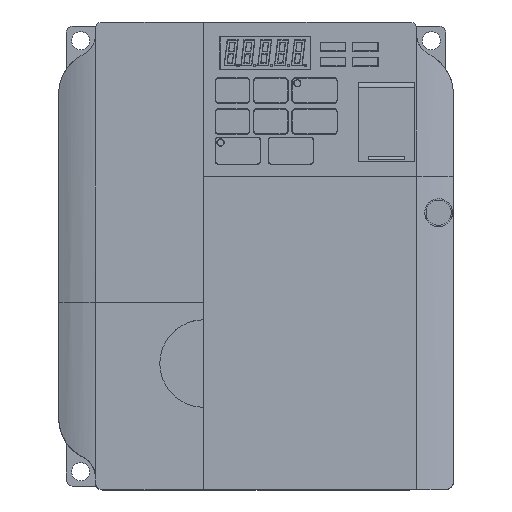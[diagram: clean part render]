
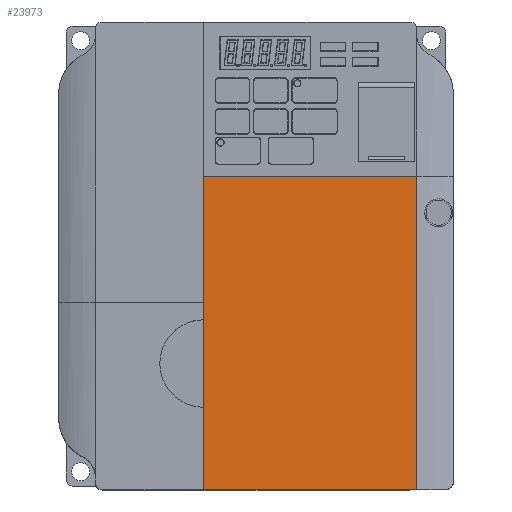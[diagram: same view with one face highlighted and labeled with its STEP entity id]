
A CAD part, top view. The second image highlights one B-rep face of the part: STEP entity #23973.
In plain terms, the highlighted planar face has unit normal (0, 0, 1).
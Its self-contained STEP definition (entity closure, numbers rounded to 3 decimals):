
#23471=DIRECTION('',(0.,-1.,0.));
#23472=VECTOR('',#23471,85.8);
#23473=CARTESIAN_POINT('',(-6.,10.,7.919));
#23474=LINE('',#23473,#23472);
#23555=DIRECTION('',(-1.,0.,0.));
#23556=VECTOR('',#23555,58.35);
#23557=CARTESIAN_POINT('',(-6.,-75.8,7.919));
#23558=LINE('',#23557,#23556);
#23564=DIRECTION('',(0.,1.,0.));
#23565=VECTOR('',#23564,85.8);
#23566=CARTESIAN_POINT('',(-64.35,-75.8,7.919));
#23567=LINE('',#23566,#23565);
#23581=DIRECTION('',(1.,0.,0.));
#23582=VECTOR('',#23581,58.35);
#23583=CARTESIAN_POINT('',(-64.35,10.,7.919));
#23584=LINE('',#23583,#23582);
#23756=CARTESIAN_POINT('',(-6.,-75.8,7.919));
#23758=VERTEX_POINT('',#23756);
#23765=CARTESIAN_POINT('',(-64.35,-75.8,7.919));
#23766=CARTESIAN_POINT('',(-64.35,10.,7.919));
#23767=VERTEX_POINT('',#23765);
#23768=VERTEX_POINT('',#23766);
#23769=CARTESIAN_POINT('',(-6.,10.,7.919));
#23770=VERTEX_POINT('',#23769);
#23962=CARTESIAN_POINT('',(-30.272,-32.779,7.919));
#23963=DIRECTION('',(0.,0.,1.));
#23964=DIRECTION('',(1.,0.,0.));
#23965=AXIS2_PLACEMENT_3D('',#23962,#23963,#23964);
#23966=PLANE('',#23965);
#23967=ORIENTED_EDGE('',*,*,#23942,.T.);
#23968=ORIENTED_EDGE('',*,*,#23957,.T.);
#23969=ORIENTED_EDGE('',*,*,#23843,.T.);
#23970=ORIENTED_EDGE('',*,*,#23927,.T.);
#23971=EDGE_LOOP('',(#23967,#23968,#23969,#23970));
#23972=FACE_OUTER_BOUND('',#23971,.F.);
#23973=ADVANCED_FACE('',(#23972),#23966,.T.);
#23843=EDGE_CURVE('',#23770,#23758,#23474,.T.);
#23927=EDGE_CURVE('',#23758,#23767,#23558,.T.);
#23942=EDGE_CURVE('',#23767,#23768,#23567,.T.);
#23957=EDGE_CURVE('',#23768,#23770,#23584,.T.);
